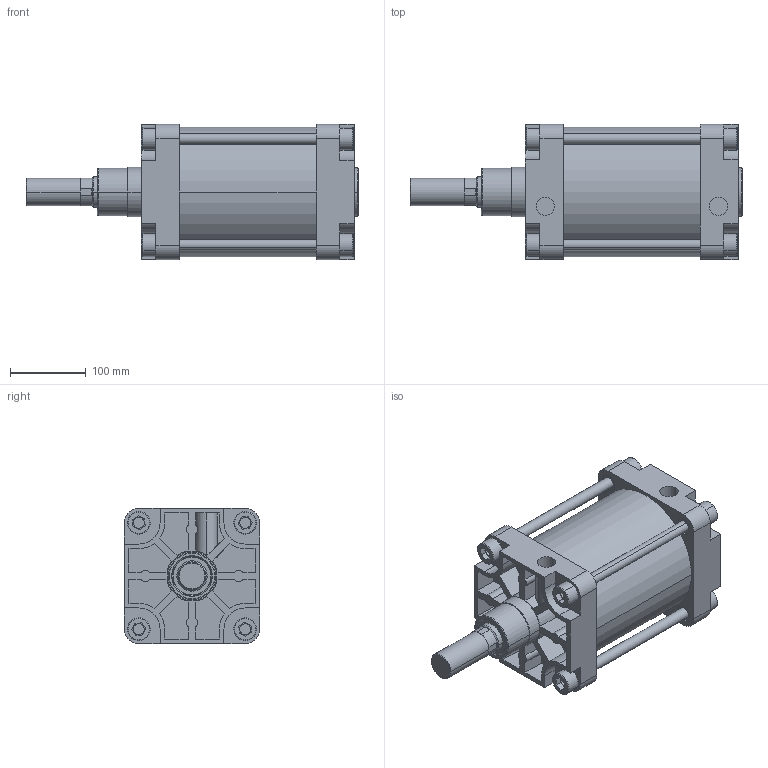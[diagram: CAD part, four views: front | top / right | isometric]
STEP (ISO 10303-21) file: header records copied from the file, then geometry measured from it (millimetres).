
FILE_DESCRIPTION(('CATIA V5 STEP Exchange'),'2;1');
FILE_NAME('D:\stp file for catalog\PNC\160\PNC 160-40-100-00.stp','2015-09-13T12:18:59+00:00',('none'),('none'),'Version 5-6 Release 2012','CATIA V5 STEP AP203','none');
FILE_SCHEMA(('CONFIG_CONTROL_DESIGN'));
Length unit declared in the file: millimetre
Products named in the file (1): PNC 160-40-100-00
Assembly tree (2 placements, depth 2):
  PNC 160-40-100-00
    #58
    #14957
Bounding box: 437 x 178 x 178 mm (x, y, z)
Volume: 4683947.5 mm3; surface area: 711251.8 mm2
Topology: 6 solids, 6 shells, 583 faces, 1428 edges, 932 vertices
Faces by surface type: plane 349, cylinder 186, torus 26, extrusion 16, cone 6
Entity records: 15847 total; most frequent: CARTESIAN_POINT 3275, ORIENTED_EDGE 2856, DIRECTION 1940, EDGE_CURVE 1428, VERTEX_POINT 932, VECTOR 930, LINE 914, AXIS2_PLACEMENT_3D 715
